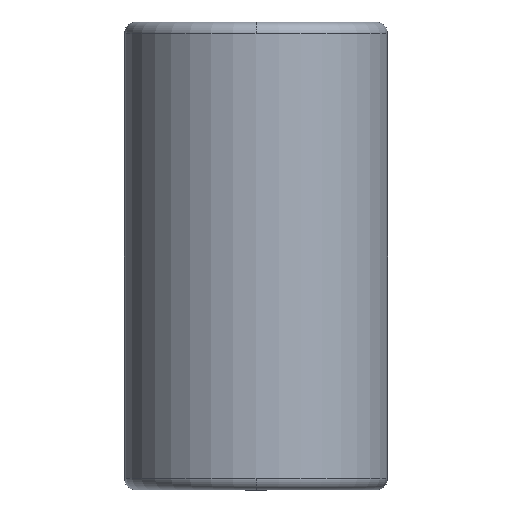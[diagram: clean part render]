
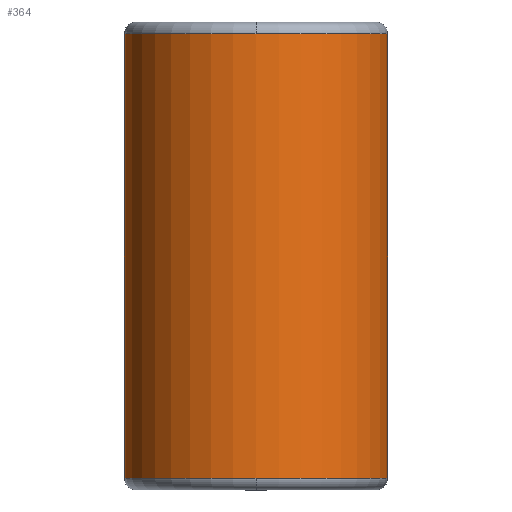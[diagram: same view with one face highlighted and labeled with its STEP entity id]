
A CAD part, front view. The second image highlights one B-rep face of the part: STEP entity #364.
In plain terms, the highlighted cylindrical face has radius 22.494 mm (diameter 44.988 mm), a partial arc.
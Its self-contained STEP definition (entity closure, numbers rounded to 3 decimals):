
#269=CARTESIAN_POINT('',(0.0,-22.494,78.));
#270=VERTEX_POINT('',#269);
#296=CARTESIAN_POINT('',(-22.494,0.,78.));
#297=VERTEX_POINT('',#296);
#305=CARTESIAN_POINT('',(0.0,0.,78.));
#306=DIRECTION('',(0.0,0.0,1.0));
#307=DIRECTION('',(1.0,0.0,0.0));
#308=AXIS2_PLACEMENT_3D('',#305,#306,#307);
#309=CIRCLE('',#308,22.494);
#310=EDGE_CURVE('',#297,#270,#309,.T.);
#315=CARTESIAN_POINT('',(0.0,0.,40.));
#316=DIRECTION('',(0.0,0.,1.0));
#317=DIRECTION('',(1.0,0.0,0.0));
#318=AXIS2_PLACEMENT_3D('',#315,#316,#317);
#319=CYLINDRICAL_SURFACE('',#318,22.494);
#320=CARTESIAN_POINT('',(22.494,0.,78.));
#321=VERTEX_POINT('',#320);
#322=CARTESIAN_POINT('',(22.494,0.,2.));
#323=VERTEX_POINT('',#322);
#324=CARTESIAN_POINT('',(22.494,0.,78.));
#325=DIRECTION('',(0.0,0.0,-1.0));
#326=VECTOR('',#325,76.);
#327=LINE('',#324,#326);
#328=EDGE_CURVE('',#321,#323,#327,.T.);
#329=ORIENTED_EDGE('',*,*,#328,.F.);
#330=CARTESIAN_POINT('',(0.0,0.,78.));
#331=DIRECTION('',(0.0,0.0,1.0));
#332=DIRECTION('',(1.0,0.0,0.0));
#333=AXIS2_PLACEMENT_3D('',#330,#331,#332);
#334=CIRCLE('',#333,22.494);
#335=EDGE_CURVE('',#270,#321,#334,.T.);
#336=ORIENTED_EDGE('',*,*,#335,.F.);
#337=ORIENTED_EDGE('',*,*,#310,.F.);
#338=CARTESIAN_POINT('',(-22.494,0.,2.0));
#339=VERTEX_POINT('',#338);
#340=CARTESIAN_POINT('',(-22.494,0.,78.));
#341=DIRECTION('',(0.0,0.0,-1.0));
#342=VECTOR('',#341,76.);
#343=LINE('',#340,#342);
#344=EDGE_CURVE('',#297,#339,#343,.T.);
#345=ORIENTED_EDGE('',*,*,#344,.T.);
#346=CARTESIAN_POINT('',(0.0,-22.494,2.));
#347=VERTEX_POINT('',#346);
#348=CARTESIAN_POINT('',(0.0,0.,2.0));
#349=DIRECTION('',(0.0,0.0,1.0));
#350=DIRECTION('',(1.0,0.0,0.0));
#351=AXIS2_PLACEMENT_3D('',#348,#349,#350);
#352=CIRCLE('',#351,22.494);
#353=EDGE_CURVE('',#339,#347,#352,.T.);
#354=ORIENTED_EDGE('',*,*,#353,.T.);
#355=CARTESIAN_POINT('',(0.0,0.,2.0));
#356=DIRECTION('',(0.0,0.0,1.0));
#357=DIRECTION('',(1.0,0.0,0.0));
#358=AXIS2_PLACEMENT_3D('',#355,#356,#357);
#359=CIRCLE('',#358,22.494);
#360=EDGE_CURVE('',#347,#323,#359,.T.);
#361=ORIENTED_EDGE('',*,*,#360,.T.);
#362=EDGE_LOOP('',(#329,#336,#337,#345,#354,#361));
#363=FACE_OUTER_BOUND('',#362,.T.);
#364=ADVANCED_FACE('',(#363),#319,.T.);
